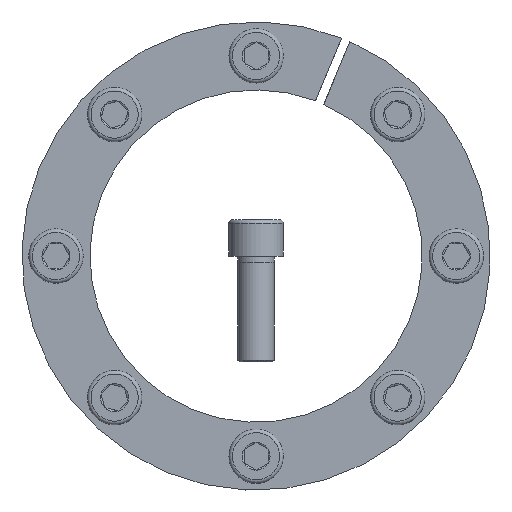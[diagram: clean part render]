
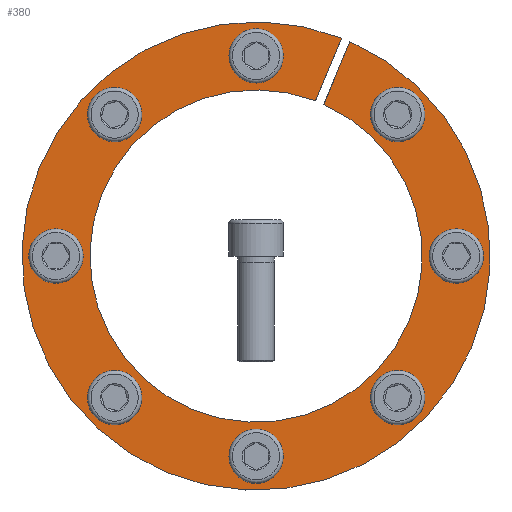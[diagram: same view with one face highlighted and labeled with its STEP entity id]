
A CAD part, front view. The second image highlights one B-rep face of the part: STEP entity #380.
In plain terms, the highlighted planar face has unit normal (0, -1, 0).
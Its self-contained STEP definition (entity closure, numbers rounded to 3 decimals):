
#380 = ADVANCED_FACE( '', ( #583, #584, #585, #586, #587, #588, #589, #590, #591 ), #592, .F. );
#583 = FACE_BOUND( '', #747, .T. );
#584 = FACE_BOUND( '', #748, .T. );
#585 = FACE_BOUND( '', #749, .T. );
#586 = FACE_BOUND( '', #750, .T. );
#587 = FACE_OUTER_BOUND( '', #751, .T. );
#588 = FACE_BOUND( '', #752, .T. );
#589 = FACE_BOUND( '', #753, .T. );
#590 = FACE_BOUND( '', #754, .T. );
#591 = FACE_BOUND( '', #755, .T. );
#592 = PLANE( '', #756 );
#747 = EDGE_LOOP( '', ( #960 ) );
#748 = EDGE_LOOP( '', ( #961 ) );
#749 = EDGE_LOOP( '', ( #962 ) );
#750 = EDGE_LOOP( '', ( #963 ) );
#751 = EDGE_LOOP( '', ( #964, #965, #966, #967 ) );
#752 = EDGE_LOOP( '', ( #968 ) );
#753 = EDGE_LOOP( '', ( #969 ) );
#754 = EDGE_LOOP( '', ( #970 ) );
#755 = EDGE_LOOP( '', ( #971 ) );
#756 = AXIS2_PLACEMENT_3D( '', #972, #973, #974 );
#960 = ORIENTED_EDGE( '', *, *, #1294, .T. );
#961 = ORIENTED_EDGE( '', *, *, #1295, .T. );
#962 = ORIENTED_EDGE( '', *, *, #1296, .T. );
#963 = ORIENTED_EDGE( '', *, *, #1297, .T. );
#964 = ORIENTED_EDGE( '', *, *, #1292, .F. );
#965 = ORIENTED_EDGE( '', *, *, #1288, .F. );
#966 = ORIENTED_EDGE( '', *, *, #1298, .T. );
#967 = ORIENTED_EDGE( '', *, *, #1299, .F. );
#968 = ORIENTED_EDGE( '', *, *, #1300, .T. );
#969 = ORIENTED_EDGE( '', *, *, #1301, .T. );
#970 = ORIENTED_EDGE( '', *, *, #1302, .T. );
#971 = ORIENTED_EDGE( '', *, *, #1303, .T. );
#972 = CARTESIAN_POINT( '', ( 0., 0., 77.5 ) );
#973 = DIRECTION( '', ( 0., 1., 0. ) );
#974 = DIRECTION( '', ( 0., 0., 1. ) );
#1288 = EDGE_CURVE( '', #1423, #1425, #1426, .T. );
#1292 = EDGE_CURVE( '', #1425, #1432, #1433, .T. );
#1294 = EDGE_CURVE( '', #1435, #1435, #1436, .T. );
#1295 = EDGE_CURVE( '', #1437, #1437, #1438, .T. );
#1296 = EDGE_CURVE( '', #1439, #1439, #1440, .T. );
#1297 = EDGE_CURVE( '', #1441, #1441, #1442, .T. );
#1298 = EDGE_CURVE( '', #1423, #1443, #1444, .T. );
#1299 = EDGE_CURVE( '', #1432, #1443, #1445, .T. );
#1300 = EDGE_CURVE( '', #1446, #1446, #1447, .T. );
#1301 = EDGE_CURVE( '', #1448, #1448, #1449, .T. );
#1302 = EDGE_CURVE( '', #1450, #1450, #1451, .T. );
#1303 = EDGE_CURVE( '', #1452, #1452, #1453, .T. );
#1423 = VERTEX_POINT( '', #1551 );
#1425 = VERTEX_POINT( '', #1554 );
#1426 = LINE( '', #1555, #1556 );
#1432 = VERTEX_POINT( '', #1564 );
#1433 = CIRCLE( '', #1565, 55. );
#1435 = VERTEX_POINT( '', #1568 );
#1436 = CIRCLE( '', #1569, 6. );
#1437 = VERTEX_POINT( '', #1570 );
#1438 = CIRCLE( '', #1571, 6. );
#1439 = VERTEX_POINT( '', #1572 );
#1440 = CIRCLE( '', #1573, 6. );
#1441 = VERTEX_POINT( '', #1574 );
#1442 = CIRCLE( '', #1575, 6. );
#1443 = VERTEX_POINT( '', #1576 );
#1444 = CIRCLE( '', #1577, 77.5 );
#1445 = LINE( '', #1578, #1579 );
#1446 = VERTEX_POINT( '', #1580 );
#1447 = CIRCLE( '', #1581, 6. );
#1448 = VERTEX_POINT( '', #1582 );
#1449 = CIRCLE( '', #1583, 6. );
#1450 = VERTEX_POINT( '', #1584 );
#1451 = CIRCLE( '', #1585, 6. );
#1452 = VERTEX_POINT( '', #1586 );
#1453 = CIRCLE( '', #1587, 6. );
#1551 = CARTESIAN_POINT( '', ( 28.267, 0., 72.161 ) );
#1554 = CARTESIAN_POINT( '', ( 19.654, 0., 51.368 ) );
#1555 = CARTESIAN_POINT( '', ( 28.272, 0., 72.175 ) );
#1556 = VECTOR( '', #1674, 1000. );
#1564 = CARTESIAN_POINT( '', ( 22.426, 0., 50.22 ) );
#1565 = AXIS2_PLACEMENT_3D( '', #1680, #1681, #1682 );
#1568 = CARTESIAN_POINT( '', ( -66.25, 0., 6. ) );
#1569 = AXIS2_PLACEMENT_3D( '', #1684, #1685, #1686 );
#1570 = CARTESIAN_POINT( '', ( -6., 0., -66.25 ) );
#1571 = AXIS2_PLACEMENT_3D( '', #1687, #1688, #1689 );
#1572 = CARTESIAN_POINT( '', ( 66.25, 0., -6. ) );
#1573 = AXIS2_PLACEMENT_3D( '', #1690, #1691, #1692 );
#1574 = CARTESIAN_POINT( '', ( 6., 0., 66.25 ) );
#1575 = AXIS2_PLACEMENT_3D( '', #1693, #1694, #1695 );
#1576 = CARTESIAN_POINT( '', ( 31.038, 0., 71.013 ) );
#1577 = AXIS2_PLACEMENT_3D( '', #1696, #1697, #1698 );
#1578 = CARTESIAN_POINT( '', ( 22.426, 0., 50.22 ) );
#1579 = VECTOR( '', #1699, 1000. );
#1580 = CARTESIAN_POINT( '', ( 51.088, 0., 42.603 ) );
#1581 = AXIS2_PLACEMENT_3D( '', #1700, #1701, #1702 );
#1582 = CARTESIAN_POINT( '', ( 42.603, 0., -51.088 ) );
#1583 = AXIS2_PLACEMENT_3D( '', #1703, #1704, #1705 );
#1584 = CARTESIAN_POINT( '', ( -51.088, 0., -42.603 ) );
#1585 = AXIS2_PLACEMENT_3D( '', #1706, #1707, #1708 );
#1586 = CARTESIAN_POINT( '', ( -42.603, 0., 51.088 ) );
#1587 = AXIS2_PLACEMENT_3D( '', #1709, #1710, #1711 );
#1674 = DIRECTION( '', ( -0.383, 0., -0.924 ) );
#1680 = CARTESIAN_POINT( '', ( 0., 0., 0. ) );
#1681 = DIRECTION( '', ( 0., -1., 0. ) );
#1682 = DIRECTION( '', ( 0., 0., -1. ) );
#1684 = CARTESIAN_POINT( '', ( -66.25, 0., 0. ) );
#1685 = DIRECTION( '', ( 0., 1., 0. ) );
#1686 = DIRECTION( '', ( 0., 0., 1. ) );
#1687 = CARTESIAN_POINT( '', ( 0., 0., -66.25 ) );
#1688 = DIRECTION( '', ( 0., 1., 0. ) );
#1689 = DIRECTION( '', ( -1., 0., 0. ) );
#1690 = CARTESIAN_POINT( '', ( 66.25, 0., 0. ) );
#1691 = DIRECTION( '', ( 0., 1., 0. ) );
#1692 = DIRECTION( '', ( 0., 0., -1. ) );
#1693 = CARTESIAN_POINT( '', ( 0., 0., 66.25 ) );
#1694 = DIRECTION( '', ( 0., 1., 0. ) );
#1695 = DIRECTION( '', ( 1., 0., 0. ) );
#1696 = CARTESIAN_POINT( '', ( 0., 0., 0. ) );
#1697 = DIRECTION( '', ( 0., -1., 0. ) );
#1698 = DIRECTION( '', ( 0., 0., -1. ) );
#1699 = DIRECTION( '', ( 0.383, 0., 0.924 ) );
#1700 = CARTESIAN_POINT( '', ( 46.846, 0., 46.846 ) );
#1701 = DIRECTION( '', ( 0., 1., 0. ) );
#1702 = DIRECTION( '', ( 0.707, 0., -0.707 ) );
#1703 = CARTESIAN_POINT( '', ( 46.846, 0., -46.846 ) );
#1704 = DIRECTION( '', ( 0., 1., 0. ) );
#1705 = DIRECTION( '', ( -0.707, 0., -0.707 ) );
#1706 = CARTESIAN_POINT( '', ( -46.846, 0., -46.846 ) );
#1707 = DIRECTION( '', ( 0., 1., 0. ) );
#1708 = DIRECTION( '', ( -0.707, 0., 0.707 ) );
#1709 = CARTESIAN_POINT( '', ( -46.846, 0., 46.846 ) );
#1710 = DIRECTION( '', ( 0., 1., 0. ) );
#1711 = DIRECTION( '', ( 0.707, 0., 0.707 ) );
